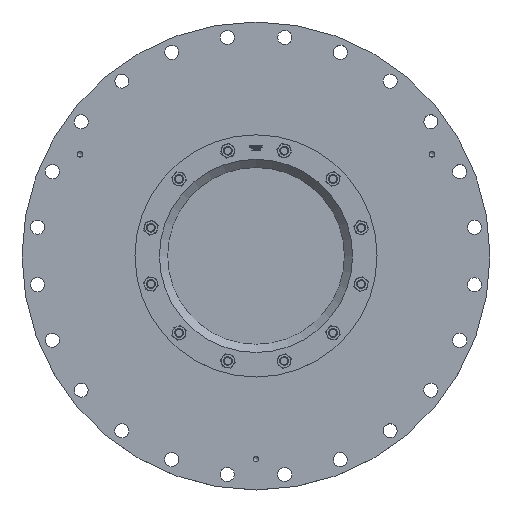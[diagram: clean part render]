
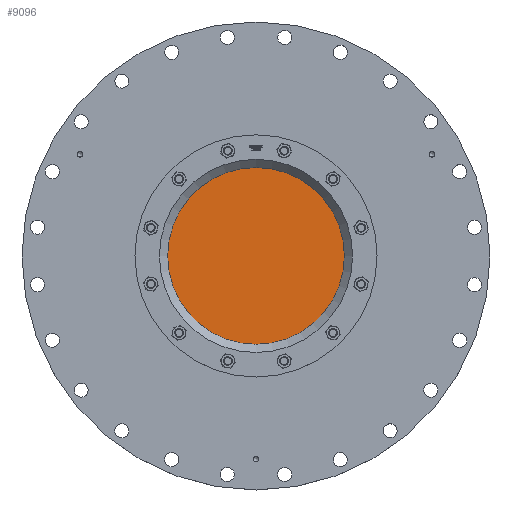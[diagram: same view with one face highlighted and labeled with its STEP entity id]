
A CAD part, top view. The second image highlights one B-rep face of the part: STEP entity #9096.
In plain terms, the highlighted planar face has unit normal (0, 0, 1).
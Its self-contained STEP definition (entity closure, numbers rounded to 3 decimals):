
#2055=FACE_OUTER_BOUND('',#2632,.T.);
#2632=EDGE_LOOP('',(#5770));
#3373=CIRCLE('',#9677,162.5);
#3639=VERTEX_POINT('',#12351);
#4487=EDGE_CURVE('',#3639,#3639,#3373,.T.);
#5770=ORIENTED_EDGE('',*,*,#4487,.F.);
#8312=PLANE('',#9676);
#9096=ADVANCED_FACE('',(#2055),#8312,.F.);
#9676=AXIS2_PLACEMENT_3D('',#12350,#10415,#10416);
#9677=AXIS2_PLACEMENT_3D('',#12352,#10417,#10418);
#10415=DIRECTION('center_axis',(0.,0.,-1.));
#10416=DIRECTION('ref_axis',(-1.,0.,0.));
#10417=DIRECTION('center_axis',(0.,0.,-1.));
#10418=DIRECTION('ref_axis',(-1.,0.,0.));
#12350=CARTESIAN_POINT('Origin',(0.,0.,99.));
#12351=CARTESIAN_POINT('',(162.5,0.,99.));
#12352=CARTESIAN_POINT('Origin',(0.,0.,99.));
